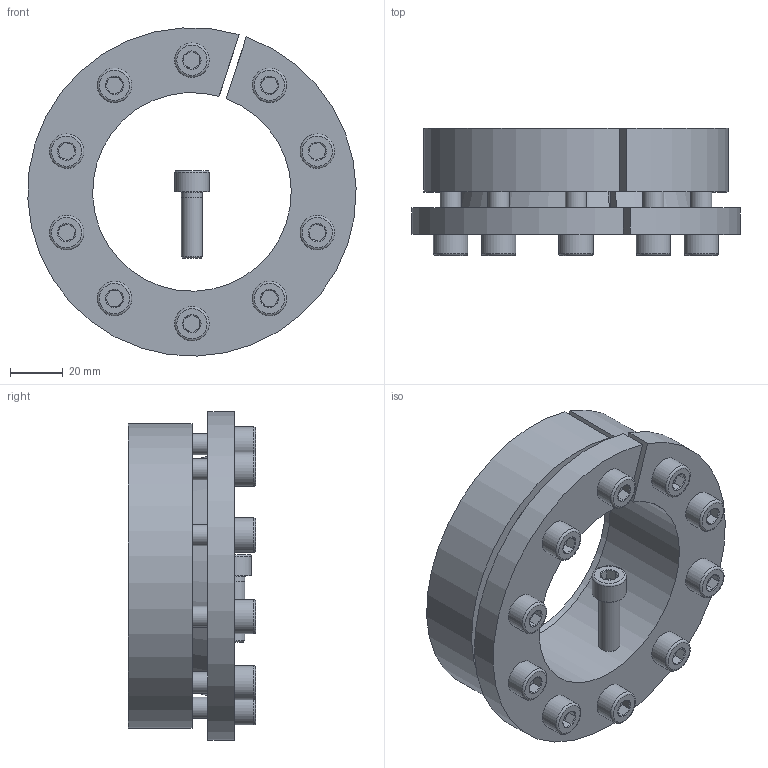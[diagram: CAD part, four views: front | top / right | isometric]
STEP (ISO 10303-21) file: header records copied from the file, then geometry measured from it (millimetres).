
FILE_DESCRIPTION( ( 'Unknown' ), '1' );
FILE_NAME( 'C:/Dokumente und Einstellungen/Sven/Desktop/homepage/cad - homepage/KBS16/KBS 16 - 75 x 115.stp', 'Unknown', ( 'Unknown' ), ( 'Unknown' ), 'XStep 1.0', 'Unknown', ' ' );
FILE_SCHEMA( ( 'automotive_design' ) );
Length unit declared in the file: millimetre
Products named in the file (3): Assem1; KBS 16 - 75 x 115; ISO EN DIN 4762 M8x25
Bounding box: 123.93 x 48 x 123.87 mm (x, y, z)
Volume: 445631.7 mm3; surface area: 124658.1 mm2
Topology: 13 solids, 13 shells, 339 faces, 673 edges, 404 vertices
Faces by surface type: plane 146, cylinder 90, cone 81, torus 22
Full cylindrical faces by diameter (mm): 7 x11, 8 x62, 13 x11
Entity records: 1978 total; most frequent: CARTESIAN_POINT 315, DIRECTION 300, ORIENTED_EDGE 210, AXIS2_PLACEMENT_3D 136, EDGE_LOOP 128, EDGE_CURVE 105, FACE_OUTER_BOUND 83, VERTEX_POINT 83
